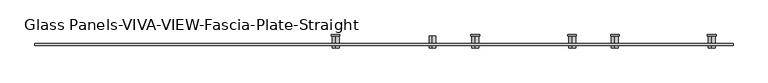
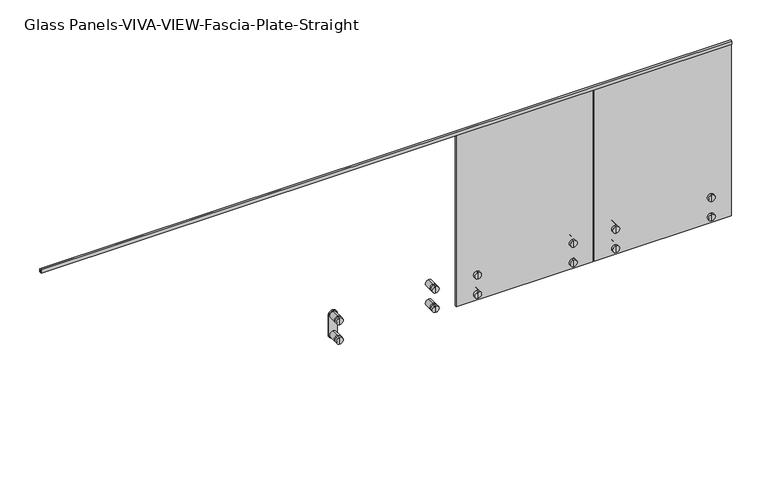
"""IFC4 building model written with IfcOpenShell, lengths in millimetres: railing geometry, Glass Panels-VIVA-VIEW-Fascia-Plate-Straight."""

from ifc_helpers import new_model, si_unit, point, frame, frame_2d, origin, place, context, project, spatial, polyline, circle_curve, trimmed, segment, composite_curve, outline, extrude, source, transform, mapped, element, save
from ifc_brep_helpers import plane_surface, cylinder_surface, advanced_brep


def glass_panels_viva_view_fascia_plate_straight_cd737d56(model_context):
    return source(origin(), model_context, "Body", "SolidModel", [
        extrude(outline(polyline([(-11437.3344585, 4140.2), (-11437.3344585, 4114.8), (-11438.9219585, 4114.8), (-11438.9219585, 4138.6125), (-11451.6219585, 4138.6125), (-11451.6219585, 4114.8), (-11453.2094585, 4114.8), (-11453.2094585, 4140.2), (-11437.3344585, 4140.2)])), frame((19925.5266433, 0.0, 0.0), z_axis=(1.0, 0.0, 0.0), x_axis=(0.0, 1.0, 0.0)), (0.0, 0.0, 1.0), 5130.8),
        advanced_brep(
        [(24188.0296899, -11469.0841646, 2794.0), (24188.0296899, -11469.0841646, 2844.8), (24188.0296899, -11469.0841646, 2819.4), (24188.0296899, -11451.6216646, 2794.0), (24188.0296899, -11451.6216646, 2844.8), (24188.0296899, -11451.6216646, 2813.685), (24188.0296899, -11451.6216646, 2825.115), (24188.0296899, -11438.9216646, 2813.685), (24188.0296899, -11438.9216646, 2825.115), (24188.0296899, -11438.9216646, 2794.0), (24188.0296899, -11438.9216646, 2844.8), (24188.0296899, -11381.7718115, 2794.0), (24188.0296899, -11381.7718115, 2844.8), (24188.0296899, -11381.7718115, 2819.4)],
        [
            (0, 1, circle_curve(frame((24188.0296899, -11469.0841646, 2819.4), z_axis=(0.0, -1.0, 0.0), x_axis=(0.0, 0.0, 1.0)), 25.4)),
            (1, 2),
            (2, 0),
            (1, 0, circle_curve(frame((24188.0296899, -11469.0841646, 2819.4), z_axis=(0.0, -1.0, 0.0), x_axis=(0.0, 0.0, 1.0)), 25.4)),
            (3, 4, circle_curve(frame((24188.0296899, -11451.6216646, 2819.4), z_axis=(0.0, -1.0, 0.0), x_axis=(0.0, 0.0, 1.0)), 25.4)),
            (4, 1),
            (0, 3),
            (4, 3, circle_curve(frame((24188.0296899, -11451.6216646, 2819.4), z_axis=(0.0, -1.0, 0.0), x_axis=(0.0, 0.0, 1.0)), 25.4)),
            (5, 6, circle_curve(frame((24188.0296899, -11451.6216646, 2819.4), z_axis=(0.0, -1.0, 0.0), x_axis=(0.0, 0.0, 1.0)), 5.715)),
            (6, 4),
            (3, 5),
            (6, 5, circle_curve(frame((24188.0296899, -11451.6216646, 2819.4), z_axis=(0.0, -1.0, 0.0), x_axis=(0.0, 0.0, 1.0)), 5.715)),
            (7, 8, circle_curve(frame((24188.0296899, -11438.9216646, 2819.4), z_axis=(0.0, -1.0, 0.0), x_axis=(0.0, 0.0, 1.0)), 5.715)),
            (8, 6),
            (5, 7),
            (8, 7, circle_curve(frame((24188.0296899, -11438.9216646, 2819.4), z_axis=(0.0, -1.0, 0.0), x_axis=(0.0, 0.0, 1.0)), 5.715)),
            (9, 10, circle_curve(frame((24188.0296899, -11438.9216646, 2819.4), z_axis=(0.0, -1.0, 0.0), x_axis=(0.0, 0.0, 1.0)), 25.4)),
            (10, 8),
            (7, 9),
            (10, 9, circle_curve(frame((24188.0296899, -11438.9216646, 2819.4), z_axis=(0.0, -1.0, 0.0), x_axis=(0.0, 0.0, 1.0)), 25.4)),
            (11, 12, circle_curve(frame((24188.0296899, -11381.7718115, 2819.4), z_axis=(0.0, -1.0, 0.0), x_axis=(0.0, 0.0, 1.0)), 25.4)),
            (12, 10),
            (9, 11),
            (12, 11, circle_curve(frame((24188.0296899, -11381.7718115, 2819.4), z_axis=(0.0, -1.0, 0.0), x_axis=(0.0, 0.0, 1.0)), 25.4)),
            (13, 12),
            (11, 13),
        ],
        [
            plane_surface(frame((24188.0296899, -11469.0841646, 2819.4), z_axis=(0.0, -1.0, 0.0), x_axis=(0.0, 0.0, 1.0))),
            cylinder_surface(frame((24188.0296899, -11537.3468115, 2819.4), z_axis=(0.0, 1.0, 0.0), x_axis=(0.0, 0.0, 1.0)), 25.4),
            plane_surface(frame((24188.0296899, -11451.6216646, 2819.4), z_axis=(0.0, 1.0, 0.0), x_axis=(0.0, 0.0, 1.0))),
            cylinder_surface(frame((24188.0296899, -11537.3468115, 2819.4), z_axis=(0.0, 1.0, 0.0), x_axis=(0.0, 0.0, 1.0)), 5.715),
            plane_surface(frame((24188.0296899, -11438.9216646, 2819.4), z_axis=(0.0, -1.0, 0.0), x_axis=(0.0, 0.0, 1.0))),
            plane_surface(frame((24188.0296899, -11381.7718115, 2819.4), z_axis=(0.0, 1.0, 0.0), x_axis=(0.0, 0.0, 1.0))),
        ],
        [
            (0, [[1, 2, 3]]),
            (0, [[4, -3, -2]]),
            (1, [[5, 6, -1, 7]]),
            (1, [[8, -7, -4, -6]]),
            (2, [[9, 10, -5, 11]]),
            (2, [[12, -11, -8, -10]]),
            (3, [[13, 14, -9, 15]]),
            (3, [[16, -15, -12, -14]]),
            (4, [[17, 18, -13, 19]]),
            (4, [[20, -19, -16, -18]]),
            (1, [[21, 22, -17, 23]]),
            (1, [[24, -23, -20, -22]]),
            (5, [[25, -21, 26]]),
            (5, [[-26, -24, -25]]),
        ],
    ),
        advanced_brep(
        [(24188.0296899, -11451.6216646, 2966.085), (24188.0296899, -11451.6216646, 2977.515), (24188.0296899, -11451.6216646, 2997.2), (24188.0296899, -11451.6216646, 2946.4), (24188.0296899, -11438.9216646, 2966.085), (24188.0296899, -11438.9216646, 2977.515), (24188.0296899, -11438.9216646, 2946.4), (24188.0296899, -11438.9216646, 2997.2), (24188.0296899, -11381.7718115, 2946.4), (24188.0296899, -11381.7718115, 2997.2), (24188.0296899, -11381.7718115, 2971.8), (24188.0296899, -11469.0841646, 2946.4), (24188.0296899, -11469.0841646, 2997.2), (24188.0296899, -11469.0841646, 2971.8)],
        [
            (0, 1, circle_curve(frame((24188.0296899, -11451.6216646, 2971.8), z_axis=(0.0, -1.0, 0.0), x_axis=(0.0, 0.0, 1.0)), 5.715)),
            (1, 2),
            (2, 3, circle_curve(frame((24188.0296899, -11451.6216646, 2971.8), z_axis=(0.0, 1.0, 0.0), x_axis=(0.0, 0.0, 1.0)), 25.4)),
            (3, 0),
            (1, 0, circle_curve(frame((24188.0296899, -11451.6216646, 2971.8), z_axis=(0.0, -1.0, 0.0), x_axis=(0.0, 0.0, 1.0)), 5.715)),
            (3, 2, circle_curve(frame((24188.0296899, -11451.6216646, 2971.8), z_axis=(0.0, 1.0, 0.0), x_axis=(0.0, 0.0, 1.0)), 25.4)),
            (4, 5, circle_curve(frame((24188.0296899, -11438.9216646, 2971.8), z_axis=(0.0, -1.0, 0.0), x_axis=(0.0, 0.0, 1.0)), 5.715)),
            (5, 1),
            (0, 4),
            (5, 4, circle_curve(frame((24188.0296899, -11438.9216646, 2971.8), z_axis=(0.0, -1.0, 0.0), x_axis=(0.0, 0.0, 1.0)), 5.715)),
            (6, 7, circle_curve(frame((24188.0296899, -11438.9216646, 2971.8), z_axis=(0.0, -1.0, 0.0), x_axis=(0.0, 0.0, 1.0)), 25.4)),
            (7, 5),
            (4, 6),
            (7, 6, circle_curve(frame((24188.0296899, -11438.9216646, 2971.8), z_axis=(0.0, -1.0, 0.0), x_axis=(0.0, 0.0, 1.0)), 25.4)),
            (8, 9, circle_curve(frame((24188.0296899, -11381.7718115, 2971.8), z_axis=(0.0, -1.0, 0.0), x_axis=(0.0, 0.0, 1.0)), 25.4)),
            (9, 7),
            (6, 8),
            (9, 8, circle_curve(frame((24188.0296899, -11381.7718115, 2971.8), z_axis=(0.0, -1.0, 0.0), x_axis=(0.0, 0.0, 1.0)), 25.4)),
            (10, 9),
            (8, 10),
            (11, 12, circle_curve(frame((24188.0296899, -11469.0841646, 2971.8), z_axis=(0.0, -1.0, 0.0), x_axis=(0.0, 0.0, 1.0)), 25.4)),
            (12, 13),
            (13, 11),
            (12, 11, circle_curve(frame((24188.0296899, -11469.0841646, 2971.8), z_axis=(0.0, -1.0, 0.0), x_axis=(0.0, 0.0, 1.0)), 25.4)),
            (2, 12),
            (11, 3),
        ],
        [
            plane_surface(frame((24188.0296899, -11451.6216646, 2971.8), z_axis=(0.0, 1.0, 0.0), x_axis=(0.0, 0.0, 1.0))),
            cylinder_surface(frame((24188.0296899, -11537.3468115, 2971.8), z_axis=(0.0, 1.0, 0.0), x_axis=(0.0, 0.0, 1.0)), 5.715),
            plane_surface(frame((24188.0296899, -11438.9216646, 2971.8), z_axis=(0.0, -1.0, 0.0), x_axis=(0.0, 0.0, 1.0))),
            cylinder_surface(frame((24188.0296899, -11537.3468115, 2971.8), z_axis=(0.0, 1.0, 0.0), x_axis=(0.0, 0.0, 1.0)), 25.4),
            plane_surface(frame((24188.0296899, -11381.7718115, 2971.8), z_axis=(0.0, 1.0, 0.0), x_axis=(0.0, 0.0, 1.0))),
            plane_surface(frame((24188.0296899, -11469.0841646, 2971.8), z_axis=(0.0, -1.0, 0.0), x_axis=(0.0, 0.0, 1.0))),
        ],
        [
            (0, [[1, 2, 3, 4]]),
            (0, [[5, -4, 6, -2]]),
            (1, [[7, 8, -1, 9]]),
            (1, [[10, -9, -5, -8]]),
            (2, [[11, 12, -7, 13]]),
            (2, [[14, -13, -10, -12]]),
            (3, [[15, 16, -11, 17]]),
            (3, [[18, -17, -14, -16]]),
            (4, [[19, -15, 20]]),
            (4, [[-20, -18, -19]]),
            (5, [[21, 22, 23]]),
            (5, [[24, -23, -22]]),
            (3, [[-3, 25, -21, 26]]),
            (3, [[-6, -26, -24, -25]]),
        ],
    ),
        extrude(outline(composite_curve([segment(polyline([(2971.8, 24156.2796899), (2819.4, 24156.2796899)]), True, "CONTINUOUS"), segment(trimmed(circle_curve(frame_2d((2819.4, 24188.0296899)), 31.75), [point((2819.4, 24156.2796899))], [point((2819.4, 24219.7796899))], False, "CARTESIAN"), True, "CONTINUOUS"), segment(polyline([(2819.4, 24219.7796899), (2971.8, 24219.7796899)]), True, "CONTINUOUS"), segment(trimmed(circle_curve(frame_2d((2971.8, 24188.0296899)), 31.75), [point((2971.8, 24219.7796899))], [point((2971.8, 24156.2796899))], False, "CARTESIAN"), True, "CONTINUOUS")], self_intersect=False)), frame((0.0, -11381.7718115, 0.0), z_axis=(0.0, 1.0, 0.0), x_axis=(0.0, 0.0, 1.0)), (0.0, 0.0, 1.0), 9.525),
        advanced_brep(
        [(24899.2296899, -11469.0841646, 2794.0), (24899.2296899, -11469.0841646, 2844.8), (24899.2296899, -11469.0841646, 2819.4), (24899.2296899, -11451.6216646, 2794.0), (24899.2296899, -11451.6216646, 2844.8), (24899.2296899, -11451.6216646, 2813.685), (24899.2296899, -11451.6216646, 2825.115), (24899.2296899, -11438.9216646, 2813.685), (24899.2296899, -11438.9216646, 2825.115), (24899.2296899, -11438.9216646, 2794.0), (24899.2296899, -11438.9216646, 2844.8), (24899.2296899, -11381.7718115, 2794.0), (24899.2296899, -11381.7718115, 2844.8), (24899.2296899, -11381.7718115, 2819.4)],
        [
            (0, 1, circle_curve(frame((24899.2296899, -11469.0841646, 2819.4), z_axis=(0.0, -1.0, 0.0), x_axis=(0.0, 0.0, 1.0)), 25.4)),
            (1, 2),
            (2, 0),
            (1, 0, circle_curve(frame((24899.2296899, -11469.0841646, 2819.4), z_axis=(0.0, -1.0, 0.0), x_axis=(0.0, 0.0, 1.0)), 25.4)),
            (3, 4, circle_curve(frame((24899.2296899, -11451.6216646, 2819.4), z_axis=(0.0, -1.0, 0.0), x_axis=(0.0, 0.0, 1.0)), 25.4)),
            (4, 1),
            (0, 3),
            (4, 3, circle_curve(frame((24899.2296899, -11451.6216646, 2819.4), z_axis=(0.0, -1.0, 0.0), x_axis=(0.0, 0.0, 1.0)), 25.4)),
            (5, 6, circle_curve(frame((24899.2296899, -11451.6216646, 2819.4), z_axis=(0.0, -1.0, 0.0), x_axis=(0.0, 0.0, 1.0)), 5.715)),
            (6, 4),
            (3, 5),
            (6, 5, circle_curve(frame((24899.2296899, -11451.6216646, 2819.4), z_axis=(0.0, -1.0, 0.0), x_axis=(0.0, 0.0, 1.0)), 5.715)),
            (7, 8, circle_curve(frame((24899.2296899, -11438.9216646, 2819.4), z_axis=(0.0, -1.0, 0.0), x_axis=(0.0, 0.0, 1.0)), 5.715)),
            (8, 6),
            (5, 7),
            (8, 7, circle_curve(frame((24899.2296899, -11438.9216646, 2819.4), z_axis=(0.0, -1.0, 0.0), x_axis=(0.0, 0.0, 1.0)), 5.715)),
            (9, 10, circle_curve(frame((24899.2296899, -11438.9216646, 2819.4), z_axis=(0.0, -1.0, 0.0), x_axis=(0.0, 0.0, 1.0)), 25.4)),
            (10, 8),
            (7, 9),
            (10, 9, circle_curve(frame((24899.2296899, -11438.9216646, 2819.4), z_axis=(0.0, -1.0, 0.0), x_axis=(0.0, 0.0, 1.0)), 25.4)),
            (11, 12, circle_curve(frame((24899.2296899, -11381.7718115, 2819.4), z_axis=(0.0, -1.0, 0.0), x_axis=(0.0, 0.0, 1.0)), 25.4)),
            (12, 10),
            (9, 11),
            (12, 11, circle_curve(frame((24899.2296899, -11381.7718115, 2819.4), z_axis=(0.0, -1.0, 0.0), x_axis=(0.0, 0.0, 1.0)), 25.4)),
            (13, 12),
            (11, 13),
        ],
        [
            plane_surface(frame((24899.2296899, -11469.0841646, 2819.4), z_axis=(0.0, -1.0, 0.0), x_axis=(0.0, 0.0, 1.0))),
            cylinder_surface(frame((24899.2296899, -11537.3468115, 2819.4), z_axis=(0.0, 1.0, 0.0), x_axis=(0.0, 0.0, 1.0)), 25.4),
            plane_surface(frame((24899.2296899, -11451.6216646, 2819.4), z_axis=(0.0, 1.0, 0.0), x_axis=(0.0, 0.0, 1.0))),
            cylinder_surface(frame((24899.2296899, -11537.3468115, 2819.4), z_axis=(0.0, 1.0, 0.0), x_axis=(0.0, 0.0, 1.0)), 5.715),
            plane_surface(frame((24899.2296899, -11438.9216646, 2819.4), z_axis=(0.0, -1.0, 0.0), x_axis=(0.0, 0.0, 1.0))),
            plane_surface(frame((24899.2296899, -11381.7718115, 2819.4), z_axis=(0.0, 1.0, 0.0), x_axis=(0.0, 0.0, 1.0))),
        ],
        [
            (0, [[1, 2, 3]]),
            (0, [[4, -3, -2]]),
            (1, [[5, 6, -1, 7]]),
            (1, [[8, -7, -4, -6]]),
            (2, [[9, 10, -5, 11]]),
            (2, [[12, -11, -8, -10]]),
            (3, [[13, 14, -9, 15]]),
            (3, [[16, -15, -12, -14]]),
            (4, [[17, 18, -13, 19]]),
            (4, [[20, -19, -16, -18]]),
            (1, [[21, 22, -17, 23]]),
            (1, [[24, -23, -20, -22]]),
            (5, [[25, -21, 26]]),
            (5, [[-26, -24, -25]]),
        ],
    ),
        advanced_brep(
        [(24899.2296899, -11451.6216646, 2966.085), (24899.2296899, -11451.6216646, 2977.515), (24899.2296899, -11451.6216646, 2997.2), (24899.2296899, -11451.6216646, 2946.4), (24899.2296899, -11438.9216646, 2966.085), (24899.2296899, -11438.9216646, 2977.515), (24899.2296899, -11438.9216646, 2946.4), (24899.2296899, -11438.9216646, 2997.2), (24899.2296899, -11381.7718115, 2946.4), (24899.2296899, -11381.7718115, 2997.2), (24899.2296899, -11381.7718115, 2971.8), (24899.2296899, -11469.0841646, 2946.4), (24899.2296899, -11469.0841646, 2997.2), (24899.2296899, -11469.0841646, 2971.8)],
        [
            (0, 1, circle_curve(frame((24899.2296899, -11451.6216646, 2971.8), z_axis=(0.0, -1.0, 0.0), x_axis=(0.0, 0.0, 1.0)), 5.715)),
            (1, 2),
            (2, 3, circle_curve(frame((24899.2296899, -11451.6216646, 2971.8), z_axis=(0.0, 1.0, 0.0), x_axis=(0.0, 0.0, 1.0)), 25.4)),
            (3, 0),
            (1, 0, circle_curve(frame((24899.2296899, -11451.6216646, 2971.8), z_axis=(0.0, -1.0, 0.0), x_axis=(0.0, 0.0, 1.0)), 5.715)),
            (3, 2, circle_curve(frame((24899.2296899, -11451.6216646, 2971.8), z_axis=(0.0, 1.0, 0.0), x_axis=(0.0, 0.0, 1.0)), 25.4)),
            (4, 5, circle_curve(frame((24899.2296899, -11438.9216646, 2971.8), z_axis=(0.0, -1.0, 0.0), x_axis=(0.0, 0.0, 1.0)), 5.715)),
            (5, 1),
            (0, 4),
            (5, 4, circle_curve(frame((24899.2296899, -11438.9216646, 2971.8), z_axis=(0.0, -1.0, 0.0), x_axis=(0.0, 0.0, 1.0)), 5.715)),
            (6, 7, circle_curve(frame((24899.2296899, -11438.9216646, 2971.8), z_axis=(0.0, -1.0, 0.0), x_axis=(0.0, 0.0, 1.0)), 25.4)),
            (7, 5),
            (4, 6),
            (7, 6, circle_curve(frame((24899.2296899, -11438.9216646, 2971.8), z_axis=(0.0, -1.0, 0.0), x_axis=(0.0, 0.0, 1.0)), 25.4)),
            (8, 9, circle_curve(frame((24899.2296899, -11381.7718115, 2971.8), z_axis=(0.0, -1.0, 0.0), x_axis=(0.0, 0.0, 1.0)), 25.4)),
            (9, 7),
            (6, 8),
            (9, 8, circle_curve(frame((24899.2296899, -11381.7718115, 2971.8), z_axis=(0.0, -1.0, 0.0), x_axis=(0.0, 0.0, 1.0)), 25.4)),
            (10, 9),
            (8, 10),
            (11, 12, circle_curve(frame((24899.2296899, -11469.0841646, 2971.8), z_axis=(0.0, -1.0, 0.0), x_axis=(0.0, 0.0, 1.0)), 25.4)),
            (12, 13),
            (13, 11),
            (12, 11, circle_curve(frame((24899.2296899, -11469.0841646, 2971.8), z_axis=(0.0, -1.0, 0.0), x_axis=(0.0, 0.0, 1.0)), 25.4)),
            (2, 12),
            (11, 3),
        ],
        [
            plane_surface(frame((24899.2296899, -11451.6216646, 2971.8), z_axis=(0.0, 1.0, 0.0), x_axis=(0.0, 0.0, 1.0))),
            cylinder_surface(frame((24899.2296899, -11537.3468115, 2971.8), z_axis=(0.0, 1.0, 0.0), x_axis=(0.0, 0.0, 1.0)), 5.715),
            plane_surface(frame((24899.2296899, -11438.9216646, 2971.8), z_axis=(0.0, -1.0, 0.0), x_axis=(0.0, 0.0, 1.0))),
            cylinder_surface(frame((24899.2296899, -11537.3468115, 2971.8), z_axis=(0.0, 1.0, 0.0), x_axis=(0.0, 0.0, 1.0)), 25.4),
            plane_surface(frame((24899.2296899, -11381.7718115, 2971.8), z_axis=(0.0, 1.0, 0.0), x_axis=(0.0, 0.0, 1.0))),
            plane_surface(frame((24899.2296899, -11469.0841646, 2971.8), z_axis=(0.0, -1.0, 0.0), x_axis=(0.0, 0.0, 1.0))),
        ],
        [
            (0, [[1, 2, 3, 4]]),
            (0, [[5, -4, 6, -2]]),
            (1, [[7, 8, -1, 9]]),
            (1, [[10, -9, -5, -8]]),
            (2, [[11, 12, -7, 13]]),
            (2, [[14, -13, -10, -12]]),
            (3, [[15, 16, -11, 17]]),
            (3, [[18, -17, -14, -16]]),
            (4, [[19, -15, 20]]),
            (4, [[-20, -18, -19]]),
            (5, [[21, 22, 23]]),
            (5, [[24, -23, -22]]),
            (3, [[-3, 25, -21, 26]]),
            (3, [[-6, -26, -24, -25]]),
        ],
    ),
        extrude(outline(composite_curve([segment(polyline([(2971.8, 24867.4796899), (2819.4, 24867.4796899)]), True, "CONTINUOUS"), segment(trimmed(circle_curve(frame_2d((2819.4, 24899.2296899)), 31.75), [point((2819.4, 24867.4796899))], [point((2819.4, 24930.9796899))], False, "CARTESIAN"), True, "CONTINUOUS"), segment(polyline([(2819.4, 24930.9796899), (2971.8, 24930.9796899)]), True, "CONTINUOUS"), segment(trimmed(circle_curve(frame_2d((2971.8, 24899.2296899)), 31.75), [point((2971.8, 24930.9796899))], [point((2971.8, 24867.4796899))], False, "CARTESIAN"), True, "CONTINUOUS")], self_intersect=False)), frame((0.0, -11381.7718115, 0.0), z_axis=(0.0, 1.0, 0.0), x_axis=(0.0, 0.0, 1.0)), (0.0, 0.0, 1.0), 9.525),
        extrude(outline(polyline([(24035.6296899, -11438.9219585), (25051.6296899, -11438.9219585), (25051.6296899, -11451.6219585), (24035.6296899, -11451.6219585), (24035.6296899, -11438.9219585)])), frame((0.0, 0.0, 2768.6), z_axis=(0.0, 0.0, 1.0), x_axis=(1.0, 0.0, 0.0)), (0.0, 0.0, 1.0), 1370.0125),
        advanced_brep(
        [(23161.8696899, -11469.0841646, 2794.0), (23161.8696899, -11469.0841646, 2844.8), (23161.8696899, -11469.0841646, 2819.4), (23161.8696899, -11451.6216646, 2794.0), (23161.8696899, -11451.6216646, 2844.8), (23161.8696899, -11451.6216646, 2813.685), (23161.8696899, -11451.6216646, 2825.115), (23161.8696899, -11438.9216646, 2813.685), (23161.8696899, -11438.9216646, 2825.115), (23161.8696899, -11438.9216646, 2794.0), (23161.8696899, -11438.9216646, 2844.8), (23161.8696899, -11381.7718115, 2794.0), (23161.8696899, -11381.7718115, 2844.8), (23161.8696899, -11381.7718115, 2819.4)],
        [
            (0, 1, circle_curve(frame((23161.8696899, -11469.0841646, 2819.4), z_axis=(0.0, -1.0, 0.0), x_axis=(0.0, 0.0, 1.0)), 25.4)),
            (1, 2),
            (2, 0),
            (1, 0, circle_curve(frame((23161.8696899, -11469.0841646, 2819.4), z_axis=(0.0, -1.0, 0.0), x_axis=(0.0, 0.0, 1.0)), 25.4)),
            (3, 4, circle_curve(frame((23161.8696899, -11451.6216646, 2819.4), z_axis=(0.0, -1.0, 0.0), x_axis=(0.0, 0.0, 1.0)), 25.4)),
            (4, 1),
            (0, 3),
            (4, 3, circle_curve(frame((23161.8696899, -11451.6216646, 2819.4), z_axis=(0.0, -1.0, 0.0), x_axis=(0.0, 0.0, 1.0)), 25.4)),
            (5, 6, circle_curve(frame((23161.8696899, -11451.6216646, 2819.4), z_axis=(0.0, -1.0, 0.0), x_axis=(0.0, 0.0, 1.0)), 5.715)),
            (6, 4),
            (3, 5),
            (6, 5, circle_curve(frame((23161.8696899, -11451.6216646, 2819.4), z_axis=(0.0, -1.0, 0.0), x_axis=(0.0, 0.0, 1.0)), 5.715)),
            (7, 8, circle_curve(frame((23161.8696899, -11438.9216646, 2819.4), z_axis=(0.0, -1.0, 0.0), x_axis=(0.0, 0.0, 1.0)), 5.715)),
            (8, 6),
            (5, 7),
            (8, 7, circle_curve(frame((23161.8696899, -11438.9216646, 2819.4), z_axis=(0.0, -1.0, 0.0), x_axis=(0.0, 0.0, 1.0)), 5.715)),
            (9, 10, circle_curve(frame((23161.8696899, -11438.9216646, 2819.4), z_axis=(0.0, -1.0, 0.0), x_axis=(0.0, 0.0, 1.0)), 25.4)),
            (10, 8),
            (7, 9),
            (10, 9, circle_curve(frame((23161.8696899, -11438.9216646, 2819.4), z_axis=(0.0, -1.0, 0.0), x_axis=(0.0, 0.0, 1.0)), 25.4)),
            (11, 12, circle_curve(frame((23161.8696899, -11381.7718115, 2819.4), z_axis=(0.0, -1.0, 0.0), x_axis=(0.0, 0.0, 1.0)), 25.4)),
            (12, 10),
            (9, 11),
            (12, 11, circle_curve(frame((23161.8696899, -11381.7718115, 2819.4), z_axis=(0.0, -1.0, 0.0), x_axis=(0.0, 0.0, 1.0)), 25.4)),
            (13, 12),
            (11, 13),
        ],
        [
            plane_surface(frame((23161.8696899, -11469.0841646, 2819.4), z_axis=(0.0, -1.0, 0.0), x_axis=(0.0, 0.0, 1.0))),
            cylinder_surface(frame((23161.8696899, -11537.3468115, 2819.4), z_axis=(0.0, 1.0, 0.0), x_axis=(0.0, 0.0, 1.0)), 25.4),
            plane_surface(frame((23161.8696899, -11451.6216646, 2819.4), z_axis=(0.0, 1.0, 0.0), x_axis=(0.0, 0.0, 1.0))),
            cylinder_surface(frame((23161.8696899, -11537.3468115, 2819.4), z_axis=(0.0, 1.0, 0.0), x_axis=(0.0, 0.0, 1.0)), 5.715),
            plane_surface(frame((23161.8696899, -11438.9216646, 2819.4), z_axis=(0.0, -1.0, 0.0), x_axis=(0.0, 0.0, 1.0))),
            plane_surface(frame((23161.8696899, -11381.7718115, 2819.4), z_axis=(0.0, 1.0, 0.0), x_axis=(0.0, 0.0, 1.0))),
        ],
        [
            (0, [[1, 2, 3]]),
            (0, [[4, -3, -2]]),
            (1, [[5, 6, -1, 7]]),
            (1, [[8, -7, -4, -6]]),
            (2, [[9, 10, -5, 11]]),
            (2, [[12, -11, -8, -10]]),
            (3, [[13, 14, -9, 15]]),
            (3, [[16, -15, -12, -14]]),
            (4, [[17, 18, -13, 19]]),
            (4, [[20, -19, -16, -18]]),
            (1, [[21, 22, -17, 23]]),
            (1, [[24, -23, -20, -22]]),
            (5, [[25, -21, 26]]),
            (5, [[-26, -24, -25]]),
        ],
    ),
        advanced_brep(
        [(23161.8696899, -11451.6216646, 2966.085), (23161.8696899, -11451.6216646, 2977.515), (23161.8696899, -11451.6216646, 2997.2), (23161.8696899, -11451.6216646, 2946.4), (23161.8696899, -11438.9216646, 2966.085), (23161.8696899, -11438.9216646, 2977.515), (23161.8696899, -11438.9216646, 2946.4), (23161.8696899, -11438.9216646, 2997.2), (23161.8696899, -11381.7718115, 2946.4), (23161.8696899, -11381.7718115, 2997.2), (23161.8696899, -11381.7718115, 2971.8), (23161.8696899, -11469.0841646, 2946.4), (23161.8696899, -11469.0841646, 2997.2), (23161.8696899, -11469.0841646, 2971.8)],
        [
            (0, 1, circle_curve(frame((23161.8696899, -11451.6216646, 2971.8), z_axis=(0.0, -1.0, 0.0), x_axis=(0.0, 0.0, 1.0)), 5.715)),
            (1, 2),
            (2, 3, circle_curve(frame((23161.8696899, -11451.6216646, 2971.8), z_axis=(0.0, 1.0, 0.0), x_axis=(0.0, 0.0, 1.0)), 25.4)),
            (3, 0),
            (1, 0, circle_curve(frame((23161.8696899, -11451.6216646, 2971.8), z_axis=(0.0, -1.0, 0.0), x_axis=(0.0, 0.0, 1.0)), 5.715)),
            (3, 2, circle_curve(frame((23161.8696899, -11451.6216646, 2971.8), z_axis=(0.0, 1.0, 0.0), x_axis=(0.0, 0.0, 1.0)), 25.4)),
            (4, 5, circle_curve(frame((23161.8696899, -11438.9216646, 2971.8), z_axis=(0.0, -1.0, 0.0), x_axis=(0.0, 0.0, 1.0)), 5.715)),
            (5, 1),
            (0, 4),
            (5, 4, circle_curve(frame((23161.8696899, -11438.9216646, 2971.8), z_axis=(0.0, -1.0, 0.0), x_axis=(0.0, 0.0, 1.0)), 5.715)),
            (6, 7, circle_curve(frame((23161.8696899, -11438.9216646, 2971.8), z_axis=(0.0, -1.0, 0.0), x_axis=(0.0, 0.0, 1.0)), 25.4)),
            (7, 5),
            (4, 6),
            (7, 6, circle_curve(frame((23161.8696899, -11438.9216646, 2971.8), z_axis=(0.0, -1.0, 0.0), x_axis=(0.0, 0.0, 1.0)), 25.4)),
            (8, 9, circle_curve(frame((23161.8696899, -11381.7718115, 2971.8), z_axis=(0.0, -1.0, 0.0), x_axis=(0.0, 0.0, 1.0)), 25.4)),
            (9, 7),
            (6, 8),
            (9, 8, circle_curve(frame((23161.8696899, -11381.7718115, 2971.8), z_axis=(0.0, -1.0, 0.0), x_axis=(0.0, 0.0, 1.0)), 25.4)),
            (10, 9),
            (8, 10),
            (11, 12, circle_curve(frame((23161.8696899, -11469.0841646, 2971.8), z_axis=(0.0, -1.0, 0.0), x_axis=(0.0, 0.0, 1.0)), 25.4)),
            (12, 13),
            (13, 11),
            (12, 11, circle_curve(frame((23161.8696899, -11469.0841646, 2971.8), z_axis=(0.0, -1.0, 0.0), x_axis=(0.0, 0.0, 1.0)), 25.4)),
            (2, 12),
            (11, 3),
        ],
        [
            plane_surface(frame((23161.8696899, -11451.6216646, 2971.8), z_axis=(0.0, 1.0, 0.0), x_axis=(0.0, 0.0, 1.0))),
            cylinder_surface(frame((23161.8696899, -11537.3468115, 2971.8), z_axis=(0.0, 1.0, 0.0), x_axis=(0.0, 0.0, 1.0)), 5.715),
            plane_surface(frame((23161.8696899, -11438.9216646, 2971.8), z_axis=(0.0, -1.0, 0.0), x_axis=(0.0, 0.0, 1.0))),
            cylinder_surface(frame((23161.8696899, -11537.3468115, 2971.8), z_axis=(0.0, 1.0, 0.0), x_axis=(0.0, 0.0, 1.0)), 25.4),
            plane_surface(frame((23161.8696899, -11381.7718115, 2971.8), z_axis=(0.0, 1.0, 0.0), x_axis=(0.0, 0.0, 1.0))),
            plane_surface(frame((23161.8696899, -11469.0841646, 2971.8), z_axis=(0.0, -1.0, 0.0), x_axis=(0.0, 0.0, 1.0))),
        ],
        [
            (0, [[1, 2, 3, 4]]),
            (0, [[5, -4, 6, -2]]),
            (1, [[7, 8, -1, 9]]),
            (1, [[10, -9, -5, -8]]),
            (2, [[11, 12, -7, 13]]),
            (2, [[14, -13, -10, -12]]),
            (3, [[15, 16, -11, 17]]),
            (3, [[18, -17, -14, -16]]),
            (4, [[19, -15, 20]]),
            (4, [[-20, -18, -19]]),
            (5, [[21, 22, 23]]),
            (5, [[24, -23, -22]]),
            (3, [[-3, 25, -21, 26]]),
            (3, [[-6, -26, -24, -25]]),
        ],
    ),
        extrude(outline(composite_curve([segment(polyline([(2971.8, 23130.1196899), (2819.4, 23130.1196899)]), True, "CONTINUOUS"), segment(trimmed(circle_curve(frame_2d((2819.4, 23161.8696899)), 31.75), [point((2819.4, 23130.1196899))], [point((2819.4, 23193.6196899))], False, "CARTESIAN"), True, "CONTINUOUS"), segment(polyline([(2819.4, 23193.6196899), (2971.8, 23193.6196899)]), True, "CONTINUOUS"), segment(trimmed(circle_curve(frame_2d((2971.8, 23161.8696899)), 31.75), [point((2971.8, 23193.6196899))], [point((2971.8, 23130.1196899))], False, "CARTESIAN"), True, "CONTINUOUS")], self_intersect=False)), frame((0.0, -11381.7718115, 0.0), z_axis=(0.0, 1.0, 0.0), x_axis=(0.0, 0.0, 1.0)), (0.0, 0.0, 1.0), 9.525),
        advanced_brep(
        [(23873.0696899, -11469.0841646, 2794.0), (23873.0696899, -11469.0841646, 2844.8), (23873.0696899, -11469.0841646, 2819.4), (23873.0696899, -11451.6216646, 2794.0), (23873.0696899, -11451.6216646, 2844.8), (23873.0696899, -11451.6216646, 2813.685), (23873.0696899, -11451.6216646, 2825.115), (23873.0696899, -11438.9216646, 2813.685), (23873.0696899, -11438.9216646, 2825.115), (23873.0696899, -11438.9216646, 2794.0), (23873.0696899, -11438.9216646, 2844.8), (23873.0696899, -11381.7718115, 2794.0), (23873.0696899, -11381.7718115, 2844.8), (23873.0696899, -11381.7718115, 2819.4)],
        [
            (0, 1, circle_curve(frame((23873.0696899, -11469.0841646, 2819.4), z_axis=(0.0, -1.0, 0.0), x_axis=(0.0, 0.0, 1.0)), 25.4)),
            (1, 2),
            (2, 0),
            (1, 0, circle_curve(frame((23873.0696899, -11469.0841646, 2819.4), z_axis=(0.0, -1.0, 0.0), x_axis=(0.0, 0.0, 1.0)), 25.4)),
            (3, 4, circle_curve(frame((23873.0696899, -11451.6216646, 2819.4), z_axis=(0.0, -1.0, 0.0), x_axis=(0.0, 0.0, 1.0)), 25.4)),
            (4, 1),
            (0, 3),
            (4, 3, circle_curve(frame((23873.0696899, -11451.6216646, 2819.4), z_axis=(0.0, -1.0, 0.0), x_axis=(0.0, 0.0, 1.0)), 25.4)),
            (5, 6, circle_curve(frame((23873.0696899, -11451.6216646, 2819.4), z_axis=(0.0, -1.0, 0.0), x_axis=(0.0, 0.0, 1.0)), 5.715)),
            (6, 4),
            (3, 5),
            (6, 5, circle_curve(frame((23873.0696899, -11451.6216646, 2819.4), z_axis=(0.0, -1.0, 0.0), x_axis=(0.0, 0.0, 1.0)), 5.715)),
            (7, 8, circle_curve(frame((23873.0696899, -11438.9216646, 2819.4), z_axis=(0.0, -1.0, 0.0), x_axis=(0.0, 0.0, 1.0)), 5.715)),
            (8, 6),
            (5, 7),
            (8, 7, circle_curve(frame((23873.0696899, -11438.9216646, 2819.4), z_axis=(0.0, -1.0, 0.0), x_axis=(0.0, 0.0, 1.0)), 5.715)),
            (9, 10, circle_curve(frame((23873.0696899, -11438.9216646, 2819.4), z_axis=(0.0, -1.0, 0.0), x_axis=(0.0, 0.0, 1.0)), 25.4)),
            (10, 8),
            (7, 9),
            (10, 9, circle_curve(frame((23873.0696899, -11438.9216646, 2819.4), z_axis=(0.0, -1.0, 0.0), x_axis=(0.0, 0.0, 1.0)), 25.4)),
            (11, 12, circle_curve(frame((23873.0696899, -11381.7718115, 2819.4), z_axis=(0.0, -1.0, 0.0), x_axis=(0.0, 0.0, 1.0)), 25.4)),
            (12, 10),
            (9, 11),
            (12, 11, circle_curve(frame((23873.0696899, -11381.7718115, 2819.4), z_axis=(0.0, -1.0, 0.0), x_axis=(0.0, 0.0, 1.0)), 25.4)),
            (13, 12),
            (11, 13),
        ],
        [
            plane_surface(frame((23873.0696899, -11469.0841646, 2819.4), z_axis=(0.0, -1.0, 0.0), x_axis=(0.0, 0.0, 1.0))),
            cylinder_surface(frame((23873.0696899, -11537.3468115, 2819.4), z_axis=(0.0, 1.0, 0.0), x_axis=(0.0, 0.0, 1.0)), 25.4),
            plane_surface(frame((23873.0696899, -11451.6216646, 2819.4), z_axis=(0.0, 1.0, 0.0), x_axis=(0.0, 0.0, 1.0))),
            cylinder_surface(frame((23873.0696899, -11537.3468115, 2819.4), z_axis=(0.0, 1.0, 0.0), x_axis=(0.0, 0.0, 1.0)), 5.715),
            plane_surface(frame((23873.0696899, -11438.9216646, 2819.4), z_axis=(0.0, -1.0, 0.0), x_axis=(0.0, 0.0, 1.0))),
            plane_surface(frame((23873.0696899, -11381.7718115, 2819.4), z_axis=(0.0, 1.0, 0.0), x_axis=(0.0, 0.0, 1.0))),
        ],
        [
            (0, [[1, 2, 3]]),
            (0, [[4, -3, -2]]),
            (1, [[5, 6, -1, 7]]),
            (1, [[8, -7, -4, -6]]),
            (2, [[9, 10, -5, 11]]),
            (2, [[12, -11, -8, -10]]),
            (3, [[13, 14, -9, 15]]),
            (3, [[16, -15, -12, -14]]),
            (4, [[17, 18, -13, 19]]),
            (4, [[20, -19, -16, -18]]),
            (1, [[21, 22, -17, 23]]),
            (1, [[24, -23, -20, -22]]),
            (5, [[25, -21, 26]]),
            (5, [[-26, -24, -25]]),
        ],
    ),
        advanced_brep(
        [(23873.0696899, -11451.6216646, 2966.085), (23873.0696899, -11451.6216646, 2977.515), (23873.0696899, -11451.6216646, 2997.2), (23873.0696899, -11451.6216646, 2946.4), (23873.0696899, -11438.9216646, 2966.085), (23873.0696899, -11438.9216646, 2977.515), (23873.0696899, -11438.9216646, 2946.4), (23873.0696899, -11438.9216646, 2997.2), (23873.0696899, -11381.7718115, 2946.4), (23873.0696899, -11381.7718115, 2997.2), (23873.0696899, -11381.7718115, 2971.8), (23873.0696899, -11469.0841646, 2946.4), (23873.0696899, -11469.0841646, 2997.2), (23873.0696899, -11469.0841646, 2971.8)],
        [
            (0, 1, circle_curve(frame((23873.0696899, -11451.6216646, 2971.8), z_axis=(0.0, -1.0, 0.0), x_axis=(0.0, 0.0, 1.0)), 5.715)),
            (1, 2),
            (2, 3, circle_curve(frame((23873.0696899, -11451.6216646, 2971.8), z_axis=(0.0, 1.0, 0.0), x_axis=(0.0, 0.0, 1.0)), 25.4)),
            (3, 0),
            (1, 0, circle_curve(frame((23873.0696899, -11451.6216646, 2971.8), z_axis=(0.0, -1.0, 0.0), x_axis=(0.0, 0.0, 1.0)), 5.715)),
            (3, 2, circle_curve(frame((23873.0696899, -11451.6216646, 2971.8), z_axis=(0.0, 1.0, 0.0), x_axis=(0.0, 0.0, 1.0)), 25.4)),
            (4, 5, circle_curve(frame((23873.0696899, -11438.9216646, 2971.8), z_axis=(0.0, -1.0, 0.0), x_axis=(0.0, 0.0, 1.0)), 5.715)),
            (5, 1),
            (0, 4),
            (5, 4, circle_curve(frame((23873.0696899, -11438.9216646, 2971.8), z_axis=(0.0, -1.0, 0.0), x_axis=(0.0, 0.0, 1.0)), 5.715)),
            (6, 7, circle_curve(frame((23873.0696899, -11438.9216646, 2971.8), z_axis=(0.0, -1.0, 0.0), x_axis=(0.0, 0.0, 1.0)), 25.4)),
            (7, 5),
            (4, 6),
            (7, 6, circle_curve(frame((23873.0696899, -11438.9216646, 2971.8), z_axis=(0.0, -1.0, 0.0), x_axis=(0.0, 0.0, 1.0)), 25.4)),
            (8, 9, circle_curve(frame((23873.0696899, -11381.7718115, 2971.8), z_axis=(0.0, -1.0, 0.0), x_axis=(0.0, 0.0, 1.0)), 25.4)),
            (9, 7),
            (6, 8),
            (9, 8, circle_curve(frame((23873.0696899, -11381.7718115, 2971.8), z_axis=(0.0, -1.0, 0.0), x_axis=(0.0, 0.0, 1.0)), 25.4)),
            (10, 9),
            (8, 10),
            (11, 12, circle_curve(frame((23873.0696899, -11469.0841646, 2971.8), z_axis=(0.0, -1.0, 0.0), x_axis=(0.0, 0.0, 1.0)), 25.4)),
            (12, 13),
            (13, 11),
            (12, 11, circle_curve(frame((23873.0696899, -11469.0841646, 2971.8), z_axis=(0.0, -1.0, 0.0), x_axis=(0.0, 0.0, 1.0)), 25.4)),
            (2, 12),
            (11, 3),
        ],
        [
            plane_surface(frame((23873.0696899, -11451.6216646, 2971.8), z_axis=(0.0, 1.0, 0.0), x_axis=(0.0, 0.0, 1.0))),
            cylinder_surface(frame((23873.0696899, -11537.3468115, 2971.8), z_axis=(0.0, 1.0, 0.0), x_axis=(0.0, 0.0, 1.0)), 5.715),
            plane_surface(frame((23873.0696899, -11438.9216646, 2971.8), z_axis=(0.0, -1.0, 0.0), x_axis=(0.0, 0.0, 1.0))),
            cylinder_surface(frame((23873.0696899, -11537.3468115, 2971.8), z_axis=(0.0, 1.0, 0.0), x_axis=(0.0, 0.0, 1.0)), 25.4),
            plane_surface(frame((23873.0696899, -11381.7718115, 2971.8), z_axis=(0.0, 1.0, 0.0), x_axis=(0.0, 0.0, 1.0))),
            plane_surface(frame((23873.0696899, -11469.0841646, 2971.8), z_axis=(0.0, -1.0, 0.0), x_axis=(0.0, 0.0, 1.0))),
        ],
        [
            (0, [[1, 2, 3, 4]]),
            (0, [[5, -4, 6, -2]]),
            (1, [[7, 8, -1, 9]]),
            (1, [[10, -9, -5, -8]]),
            (2, [[11, 12, -7, 13]]),
            (2, [[14, -13, -10, -12]]),
            (3, [[15, 16, -11, 17]]),
            (3, [[18, -17, -14, -16]]),
            (4, [[19, -15, 20]]),
            (4, [[-20, -18, -19]]),
            (5, [[21, 22, 23]]),
            (5, [[24, -23, -22]]),
            (3, [[-3, 25, -21, 26]]),
            (3, [[-6, -26, -24, -25]]),
        ],
    ),
        extrude(outline(composite_curve([segment(polyline([(2971.8, 23841.3196899), (2819.4, 23841.3196899)]), True, "CONTINUOUS"), segment(trimmed(circle_curve(frame_2d((2819.4, 23873.0696899)), 31.75), [point((2819.4, 23841.3196899))], [point((2819.4, 23904.8196899))], False, "CARTESIAN"), True, "CONTINUOUS"), segment(polyline([(2819.4, 23904.8196899), (2971.8, 23904.8196899)]), True, "CONTINUOUS"), segment(trimmed(circle_curve(frame_2d((2971.8, 23873.0696899)), 31.75), [point((2971.8, 23904.8196899))], [point((2971.8, 23841.3196899))], False, "CARTESIAN"), True, "CONTINUOUS")], self_intersect=False)), frame((0.0, -11381.7718115, 0.0), z_axis=(0.0, 1.0, 0.0), x_axis=(0.0, 0.0, 1.0)), (0.0, 0.0, 1.0), 9.525),
        extrude(outline(polyline([(23009.4696899, -11438.9219585), (24025.4696899, -11438.9219585), (24025.4696899, -11451.6219585), (23009.4696899, -11451.6219585), (23009.4696899, -11438.9219585)])), frame((0.0, 0.0, 2768.6), z_axis=(0.0, 0.0, 1.0), x_axis=(1.0, 0.0, 0.0)), (0.0, 0.0, 1.0), 1370.0125),
        advanced_brep(
        [(22135.7096899, -11469.0841646, 2794.0), (22135.7096899, -11469.0841646, 2844.8), (22135.7096899, -11469.0841646, 2819.4), (22135.7096899, -11451.6216646, 2794.0), (22135.7096899, -11451.6216646, 2844.8), (22135.7096899, -11451.6216646, 2813.685), (22135.7096899, -11451.6216646, 2825.115), (22135.7096899, -11438.9216646, 2813.685), (22135.7096899, -11438.9216646, 2825.115), (22135.7096899, -11438.9216646, 2794.0), (22135.7096899, -11438.9216646, 2844.8), (22135.7096899, -11381.7718115, 2794.0), (22135.7096899, -11381.7718115, 2844.8), (22135.7096899, -11381.7718115, 2819.4)],
        [
            (0, 1, circle_curve(frame((22135.7096899, -11469.0841646, 2819.4), z_axis=(0.0, -1.0, 0.0), x_axis=(0.0, 0.0, 1.0)), 25.4)),
            (1, 2),
            (2, 0),
            (1, 0, circle_curve(frame((22135.7096899, -11469.0841646, 2819.4), z_axis=(0.0, -1.0, 0.0), x_axis=(0.0, 0.0, 1.0)), 25.4)),
            (3, 4, circle_curve(frame((22135.7096899, -11451.6216646, 2819.4), z_axis=(0.0, -1.0, 0.0), x_axis=(0.0, 0.0, 1.0)), 25.4)),
            (4, 1),
            (0, 3),
            (4, 3, circle_curve(frame((22135.7096899, -11451.6216646, 2819.4), z_axis=(0.0, -1.0, 0.0), x_axis=(0.0, 0.0, 1.0)), 25.4)),
            (5, 6, circle_curve(frame((22135.7096899, -11451.6216646, 2819.4), z_axis=(0.0, -1.0, 0.0), x_axis=(0.0, 0.0, 1.0)), 5.715)),
            (6, 4),
            (3, 5),
            (6, 5, circle_curve(frame((22135.7096899, -11451.6216646, 2819.4), z_axis=(0.0, -1.0, 0.0), x_axis=(0.0, 0.0, 1.0)), 5.715)),
            (7, 8, circle_curve(frame((22135.7096899, -11438.9216646, 2819.4), z_axis=(0.0, -1.0, 0.0), x_axis=(0.0, 0.0, 1.0)), 5.715)),
            (8, 6),
            (5, 7),
            (8, 7, circle_curve(frame((22135.7096899, -11438.9216646, 2819.4), z_axis=(0.0, -1.0, 0.0), x_axis=(0.0, 0.0, 1.0)), 5.715)),
            (9, 10, circle_curve(frame((22135.7096899, -11438.9216646, 2819.4), z_axis=(0.0, -1.0, 0.0), x_axis=(0.0, 0.0, 1.0)), 25.4)),
            (10, 8),
            (7, 9),
            (10, 9, circle_curve(frame((22135.7096899, -11438.9216646, 2819.4), z_axis=(0.0, -1.0, 0.0), x_axis=(0.0, 0.0, 1.0)), 25.4)),
            (11, 12, circle_curve(frame((22135.7096899, -11381.7718115, 2819.4), z_axis=(0.0, -1.0, 0.0), x_axis=(0.0, 0.0, 1.0)), 25.4)),
            (12, 10),
            (9, 11),
            (12, 11, circle_curve(frame((22135.7096899, -11381.7718115, 2819.4), z_axis=(0.0, -1.0, 0.0), x_axis=(0.0, 0.0, 1.0)), 25.4)),
            (13, 12),
            (11, 13),
        ],
        [
            plane_surface(frame((22135.7096899, -11469.0841646, 2819.4), z_axis=(0.0, -1.0, 0.0), x_axis=(0.0, 0.0, 1.0))),
            cylinder_surface(frame((22135.7096899, -11537.3468115, 2819.4), z_axis=(0.0, 1.0, 0.0), x_axis=(0.0, 0.0, 1.0)), 25.4),
            plane_surface(frame((22135.7096899, -11451.6216646, 2819.4), z_axis=(0.0, 1.0, 0.0), x_axis=(0.0, 0.0, 1.0))),
            cylinder_surface(frame((22135.7096899, -11537.3468115, 2819.4), z_axis=(0.0, 1.0, 0.0), x_axis=(0.0, 0.0, 1.0)), 5.715),
            plane_surface(frame((22135.7096899, -11438.9216646, 2819.4), z_axis=(0.0, -1.0, 0.0), x_axis=(0.0, 0.0, 1.0))),
            plane_surface(frame((22135.7096899, -11381.7718115, 2819.4), z_axis=(0.0, 1.0, 0.0), x_axis=(0.0, 0.0, 1.0))),
        ],
        [
            (0, [[1, 2, 3]]),
            (0, [[4, -3, -2]]),
            (1, [[5, 6, -1, 7]]),
            (1, [[8, -7, -4, -6]]),
            (2, [[9, 10, -5, 11]]),
            (2, [[12, -11, -8, -10]]),
            (3, [[13, 14, -9, 15]]),
            (3, [[16, -15, -12, -14]]),
            (4, [[17, 18, -13, 19]]),
            (4, [[20, -19, -16, -18]]),
            (1, [[21, 22, -17, 23]]),
            (1, [[24, -23, -20, -22]]),
            (5, [[25, -21, 26]]),
            (5, [[-26, -24, -25]]),
        ],
    ),
        advanced_brep(
        [(22135.7096899, -11451.6216646, 2966.085), (22135.7096899, -11451.6216646, 2977.515), (22135.7096899, -11451.6216646, 2997.2), (22135.7096899, -11451.6216646, 2946.4), (22135.7096899, -11438.9216646, 2966.085), (22135.7096899, -11438.9216646, 2977.515), (22135.7096899, -11438.9216646, 2946.4), (22135.7096899, -11438.9216646, 2997.2), (22135.7096899, -11381.7718115, 2946.4), (22135.7096899, -11381.7718115, 2997.2), (22135.7096899, -11381.7718115, 2971.8), (22135.7096899, -11469.0841646, 2946.4), (22135.7096899, -11469.0841646, 2997.2), (22135.7096899, -11469.0841646, 2971.8)],
        [
            (0, 1, circle_curve(frame((22135.7096899, -11451.6216646, 2971.8), z_axis=(0.0, -1.0, 0.0), x_axis=(0.0, 0.0, 1.0)), 5.715)),
            (1, 2),
            (2, 3, circle_curve(frame((22135.7096899, -11451.6216646, 2971.8), z_axis=(0.0, 1.0, 0.0), x_axis=(0.0, 0.0, 1.0)), 25.4)),
            (3, 0),
            (1, 0, circle_curve(frame((22135.7096899, -11451.6216646, 2971.8), z_axis=(0.0, -1.0, 0.0), x_axis=(0.0, 0.0, 1.0)), 5.715)),
            (3, 2, circle_curve(frame((22135.7096899, -11451.6216646, 2971.8), z_axis=(0.0, 1.0, 0.0), x_axis=(0.0, 0.0, 1.0)), 25.4)),
            (4, 5, circle_curve(frame((22135.7096899, -11438.9216646, 2971.8), z_axis=(0.0, -1.0, 0.0), x_axis=(0.0, 0.0, 1.0)), 5.715)),
            (5, 1),
            (0, 4),
            (5, 4, circle_curve(frame((22135.7096899, -11438.9216646, 2971.8), z_axis=(0.0, -1.0, 0.0), x_axis=(0.0, 0.0, 1.0)), 5.715)),
            (6, 7, circle_curve(frame((22135.7096899, -11438.9216646, 2971.8), z_axis=(0.0, -1.0, 0.0), x_axis=(0.0, 0.0, 1.0)), 25.4)),
            (7, 5),
            (4, 6),
            (7, 6, circle_curve(frame((22135.7096899, -11438.9216646, 2971.8), z_axis=(0.0, -1.0, 0.0), x_axis=(0.0, 0.0, 1.0)), 25.4)),
            (8, 9, circle_curve(frame((22135.7096899, -11381.7718115, 2971.8), z_axis=(0.0, -1.0, 0.0), x_axis=(0.0, 0.0, 1.0)), 25.4)),
            (9, 7),
            (6, 8),
            (9, 8, circle_curve(frame((22135.7096899, -11381.7718115, 2971.8), z_axis=(0.0, -1.0, 0.0), x_axis=(0.0, 0.0, 1.0)), 25.4)),
            (10, 9),
            (8, 10),
            (11, 12, circle_curve(frame((22135.7096899, -11469.0841646, 2971.8), z_axis=(0.0, -1.0, 0.0), x_axis=(0.0, 0.0, 1.0)), 25.4)),
            (12, 13),
            (13, 11),
            (12, 11, circle_curve(frame((22135.7096899, -11469.0841646, 2971.8), z_axis=(0.0, -1.0, 0.0), x_axis=(0.0, 0.0, 1.0)), 25.4)),
            (2, 12),
            (11, 3),
        ],
        [
            plane_surface(frame((22135.7096899, -11451.6216646, 2971.8), z_axis=(0.0, 1.0, 0.0), x_axis=(0.0, 0.0, 1.0))),
            cylinder_surface(frame((22135.7096899, -11537.3468115, 2971.8), z_axis=(0.0, 1.0, 0.0), x_axis=(0.0, 0.0, 1.0)), 5.715),
            plane_surface(frame((22135.7096899, -11438.9216646, 2971.8), z_axis=(0.0, -1.0, 0.0), x_axis=(0.0, 0.0, 1.0))),
            cylinder_surface(frame((22135.7096899, -11537.3468115, 2971.8), z_axis=(0.0, 1.0, 0.0), x_axis=(0.0, 0.0, 1.0)), 25.4),
            plane_surface(frame((22135.7096899, -11381.7718115, 2971.8), z_axis=(0.0, 1.0, 0.0), x_axis=(0.0, 0.0, 1.0))),
            plane_surface(frame((22135.7096899, -11469.0841646, 2971.8), z_axis=(0.0, -1.0, 0.0), x_axis=(0.0, 0.0, 1.0))),
        ],
        [
            (0, [[1, 2, 3, 4]]),
            (0, [[5, -4, 6, -2]]),
            (1, [[7, 8, -1, 9]]),
            (1, [[10, -9, -5, -8]]),
            (2, [[11, 12, -7, 13]]),
            (2, [[14, -13, -10, -12]]),
            (3, [[15, 16, -11, 17]]),
            (3, [[18, -17, -14, -16]]),
            (4, [[19, -15, 20]]),
            (4, [[-20, -18, -19]]),
            (5, [[21, 22, 23]]),
            (5, [[24, -23, -22]]),
            (3, [[-3, 25, -21, 26]]),
            (3, [[-6, -26, -24, -25]]),
        ],
    ),
        extrude(outline(composite_curve([segment(polyline([(2971.8, 22103.9596899), (2819.4, 22103.9596899)]), True, "CONTINUOUS"), segment(trimmed(circle_curve(frame_2d((2819.4, 22135.7096899)), 31.75), [point((2819.4, 22103.9596899))], [point((2819.4, 22167.4596899))], False, "CARTESIAN"), True, "CONTINUOUS"), segment(polyline([(2819.4, 22167.4596899), (2971.8, 22167.4596899)]), True, "CONTINUOUS"), segment(trimmed(circle_curve(frame_2d((2971.8, 22135.7096899)), 31.75), [point((2971.8, 22167.4596899))], [point((2971.8, 22103.9596899))], False, "CARTESIAN"), True, "CONTINUOUS")], self_intersect=False)), frame((0.0, -11381.7718115, 0.0), z_axis=(0.0, 1.0, 0.0), x_axis=(0.0, 0.0, 1.0)), (0.0, 0.0, 1.0), 9.525),
        advanced_brep(
        [(22846.9096899, -11469.0841646, 2794.0), (22846.9096899, -11469.0841646, 2844.8), (22846.9096899, -11469.0841646, 2819.4), (22846.9096899, -11451.6216646, 2794.0), (22846.9096899, -11451.6216646, 2844.8), (22846.9096899, -11451.6216646, 2813.685), (22846.9096899, -11451.6216646, 2825.115), (22846.9096899, -11438.9216646, 2813.685), (22846.9096899, -11438.9216646, 2825.115), (22846.9096899, -11438.9216646, 2794.0), (22846.9096899, -11438.9216646, 2844.8), (22846.9096899, -11381.7718115, 2794.0), (22846.9096899, -11381.7718115, 2844.8), (22846.9096899, -11381.7718115, 2819.4)],
        [
            (0, 1, circle_curve(frame((22846.9096899, -11469.0841646, 2819.4), z_axis=(0.0, -1.0, 0.0), x_axis=(0.0, 0.0, 1.0)), 25.4)),
            (1, 2),
            (2, 0),
            (1, 0, circle_curve(frame((22846.9096899, -11469.0841646, 2819.4), z_axis=(0.0, -1.0, 0.0), x_axis=(0.0, 0.0, 1.0)), 25.4)),
            (3, 4, circle_curve(frame((22846.9096899, -11451.6216646, 2819.4), z_axis=(0.0, -1.0, 0.0), x_axis=(0.0, 0.0, 1.0)), 25.4)),
            (4, 1),
            (0, 3),
            (4, 3, circle_curve(frame((22846.9096899, -11451.6216646, 2819.4), z_axis=(0.0, -1.0, 0.0), x_axis=(0.0, 0.0, 1.0)), 25.4)),
            (5, 6, circle_curve(frame((22846.9096899, -11451.6216646, 2819.4), z_axis=(0.0, -1.0, 0.0), x_axis=(0.0, 0.0, 1.0)), 5.715)),
            (6, 4),
            (3, 5),
            (6, 5, circle_curve(frame((22846.9096899, -11451.6216646, 2819.4), z_axis=(0.0, -1.0, 0.0), x_axis=(0.0, 0.0, 1.0)), 5.715)),
            (7, 8, circle_curve(frame((22846.9096899, -11438.9216646, 2819.4), z_axis=(0.0, -1.0, 0.0), x_axis=(0.0, 0.0, 1.0)), 5.715)),
            (8, 6),
            (5, 7),
            (8, 7, circle_curve(frame((22846.9096899, -11438.9216646, 2819.4), z_axis=(0.0, -1.0, 0.0), x_axis=(0.0, 0.0, 1.0)), 5.715)),
            (9, 10, circle_curve(frame((22846.9096899, -11438.9216646, 2819.4), z_axis=(0.0, -1.0, 0.0), x_axis=(0.0, 0.0, 1.0)), 25.4)),
            (10, 8),
            (7, 9),
            (10, 9, circle_curve(frame((22846.9096899, -11438.9216646, 2819.4), z_axis=(0.0, -1.0, 0.0), x_axis=(0.0, 0.0, 1.0)), 25.4)),
            (11, 12, circle_curve(frame((22846.9096899, -11381.7718115, 2819.4), z_axis=(0.0, -1.0, 0.0), x_axis=(0.0, 0.0, 1.0)), 25.4)),
            (12, 10),
            (9, 11),
            (12, 11, circle_curve(frame((22846.9096899, -11381.7718115, 2819.4), z_axis=(0.0, -1.0, 0.0), x_axis=(0.0, 0.0, 1.0)), 25.4)),
            (13, 12),
            (11, 13),
        ],
        [
            plane_surface(frame((22846.9096899, -11469.0841646, 2819.4), z_axis=(0.0, -1.0, 0.0), x_axis=(0.0, 0.0, 1.0))),
            cylinder_surface(frame((22846.9096899, -11537.3468115, 2819.4), z_axis=(0.0, 1.0, 0.0), x_axis=(0.0, 0.0, 1.0)), 25.4),
            plane_surface(frame((22846.9096899, -11451.6216646, 2819.4), z_axis=(0.0, 1.0, 0.0), x_axis=(0.0, 0.0, 1.0))),
            cylinder_surface(frame((22846.9096899, -11537.3468115, 2819.4), z_axis=(0.0, 1.0, 0.0), x_axis=(0.0, 0.0, 1.0)), 5.715),
            plane_surface(frame((22846.9096899, -11438.9216646, 2819.4), z_axis=(0.0, -1.0, 0.0), x_axis=(0.0, 0.0, 1.0))),
            plane_surface(frame((22846.9096899, -11381.7718115, 2819.4), z_axis=(0.0, 1.0, 0.0), x_axis=(0.0, 0.0, 1.0))),
        ],
        [
            (0, [[1, 2, 3]]),
            (0, [[4, -3, -2]]),
            (1, [[5, 6, -1, 7]]),
            (1, [[8, -7, -4, -6]]),
            (2, [[9, 10, -5, 11]]),
            (2, [[12, -11, -8, -10]]),
            (3, [[13, 14, -9, 15]]),
            (3, [[16, -15, -12, -14]]),
            (4, [[17, 18, -13, 19]]),
            (4, [[20, -19, -16, -18]]),
            (1, [[21, 22, -17, 23]]),
            (1, [[24, -23, -20, -22]]),
            (5, [[25, -21, 26]]),
            (5, [[-26, -24, -25]]),
        ],
    ),
        advanced_brep(
        [(22846.9096899, -11451.6216646, 2966.085), (22846.9096899, -11451.6216646, 2977.515), (22846.9096899, -11451.6216646, 2997.2), (22846.9096899, -11451.6216646, 2946.4), (22846.9096899, -11438.9216646, 2966.085), (22846.9096899, -11438.9216646, 2977.515), (22846.9096899, -11438.9216646, 2946.4), (22846.9096899, -11438.9216646, 2997.2), (22846.9096899, -11381.7718115, 2946.4), (22846.9096899, -11381.7718115, 2997.2), (22846.9096899, -11381.7718115, 2971.8), (22846.9096899, -11469.0841646, 2946.4), (22846.9096899, -11469.0841646, 2997.2), (22846.9096899, -11469.0841646, 2971.8)],
        [
            (0, 1, circle_curve(frame((22846.9096899, -11451.6216646, 2971.8), z_axis=(0.0, -1.0, 0.0), x_axis=(0.0, 0.0, 1.0)), 5.715)),
            (1, 2),
            (2, 3, circle_curve(frame((22846.9096899, -11451.6216646, 2971.8), z_axis=(0.0, 1.0, 0.0), x_axis=(0.0, 0.0, 1.0)), 25.4)),
            (3, 0),
            (1, 0, circle_curve(frame((22846.9096899, -11451.6216646, 2971.8), z_axis=(0.0, -1.0, 0.0), x_axis=(0.0, 0.0, 1.0)), 5.715)),
            (3, 2, circle_curve(frame((22846.9096899, -11451.6216646, 2971.8), z_axis=(0.0, 1.0, 0.0), x_axis=(0.0, 0.0, 1.0)), 25.4)),
            (4, 5, circle_curve(frame((22846.9096899, -11438.9216646, 2971.8), z_axis=(0.0, -1.0, 0.0), x_axis=(0.0, 0.0, 1.0)), 5.715)),
            (5, 1),
            (0, 4),
            (5, 4, circle_curve(frame((22846.9096899, -11438.9216646, 2971.8), z_axis=(0.0, -1.0, 0.0), x_axis=(0.0, 0.0, 1.0)), 5.715)),
            (6, 7, circle_curve(frame((22846.9096899, -11438.9216646, 2971.8), z_axis=(0.0, -1.0, 0.0), x_axis=(0.0, 0.0, 1.0)), 25.4)),
            (7, 5),
            (4, 6),
            (7, 6, circle_curve(frame((22846.9096899, -11438.9216646, 2971.8), z_axis=(0.0, -1.0, 0.0), x_axis=(0.0, 0.0, 1.0)), 25.4)),
            (8, 9, circle_curve(frame((22846.9096899, -11381.7718115, 2971.8), z_axis=(0.0, -1.0, 0.0), x_axis=(0.0, 0.0, 1.0)), 25.4)),
            (9, 7),
            (6, 8),
            (9, 8, circle_curve(frame((22846.9096899, -11381.7718115, 2971.8), z_axis=(0.0, -1.0, 0.0), x_axis=(0.0, 0.0, 1.0)), 25.4)),
            (10, 9),
            (8, 10),
            (11, 12, circle_curve(frame((22846.9096899, -11469.0841646, 2971.8), z_axis=(0.0, -1.0, 0.0), x_axis=(0.0, 0.0, 1.0)), 25.4)),
            (12, 13),
            (13, 11),
            (12, 11, circle_curve(frame((22846.9096899, -11469.0841646, 2971.8), z_axis=(0.0, -1.0, 0.0), x_axis=(0.0, 0.0, 1.0)), 25.4)),
            (2, 12),
            (11, 3),
        ],
        [
            plane_surface(frame((22846.9096899, -11451.6216646, 2971.8), z_axis=(0.0, 1.0, 0.0), x_axis=(0.0, 0.0, 1.0))),
            cylinder_surface(frame((22846.9096899, -11537.3468115, 2971.8), z_axis=(0.0, 1.0, 0.0), x_axis=(0.0, 0.0, 1.0)), 5.715),
            plane_surface(frame((22846.9096899, -11438.9216646, 2971.8), z_axis=(0.0, -1.0, 0.0), x_axis=(0.0, 0.0, 1.0))),
            cylinder_surface(frame((22846.9096899, -11537.3468115, 2971.8), z_axis=(0.0, 1.0, 0.0), x_axis=(0.0, 0.0, 1.0)), 25.4),
            plane_surface(frame((22846.9096899, -11381.7718115, 2971.8), z_axis=(0.0, 1.0, 0.0), x_axis=(0.0, 0.0, 1.0))),
            plane_surface(frame((22846.9096899, -11469.0841646, 2971.8), z_axis=(0.0, -1.0, 0.0), x_axis=(0.0, 0.0, 1.0))),
        ],
        [
            (0, [[1, 2, 3, 4]]),
            (0, [[5, -4, 6, -2]]),
            (1, [[7, 8, -1, 9]]),
            (1, [[10, -9, -5, -8]]),
            (2, [[11, 12, -7, 13]]),
            (2, [[14, -13, -10, -12]]),
            (3, [[15, 16, -11, 17]]),
            (3, [[18, -17, -14, -16]]),
            (4, [[19, -15, 20]]),
            (4, [[-20, -18, -19]]),
            (5, [[21, 22, 23]]),
            (5, [[24, -23, -22]]),
            (3, [[-3, 25, -21, 26]]),
            (3, [[-6, -26, -24, -25]]),
        ],
    ),
    ])


if __name__ == "__main__":
    model = new_model("IFC4")
    model_context = context("Model", 3, world=origin())
    ifc_project = project(units=[si_unit("LENGTHUNIT", "METRE", prefix="MILLI")], contexts=[model_context])
    site = spatial("IfcSite", under=ifc_project)
    building = spatial("IfcBuilding", under=site)
    placement = place(None, origin())
    glass_panels_viva_view_fascia_plate_straight_shape = glass_panels_viva_view_fascia_plate_straight_cd737d56(model_context)
    element("IfcRailing", 1, ObjectType="Glass Panels-VIVA-VIEW-Fascia-Plate-Straight", at=placement, inside=building, context=model_context, shape_type="MappedRepresentation", body=[
        mapped(glass_panels_viva_view_fascia_plate_straight_shape, transform((0.0, 0.0, 0.0), x_axis=(1.0, 0.0, 0.0), y_axis=(0.0, 1.0, 0.0), z_axis=(0.0, 0.0, 1.0))),
    ])
    save(model, "model.ifc")
